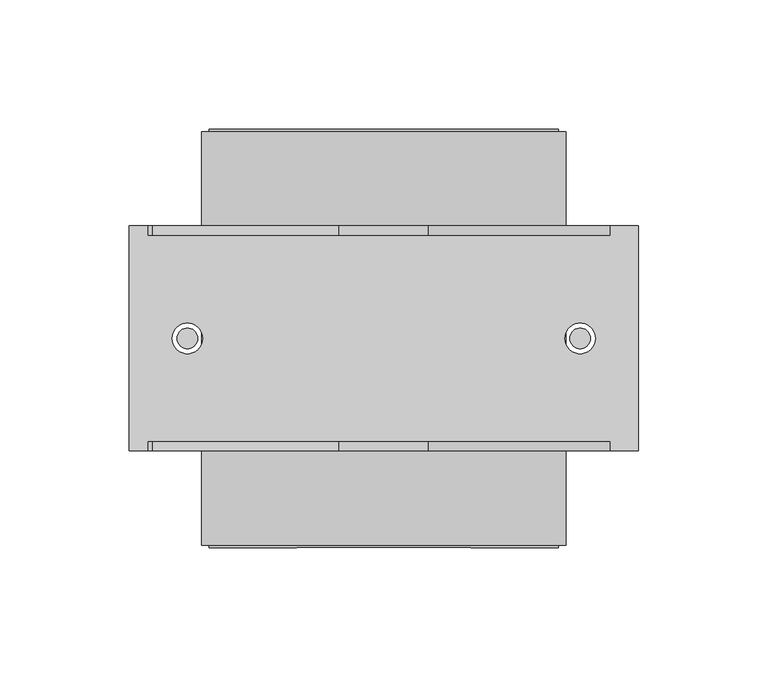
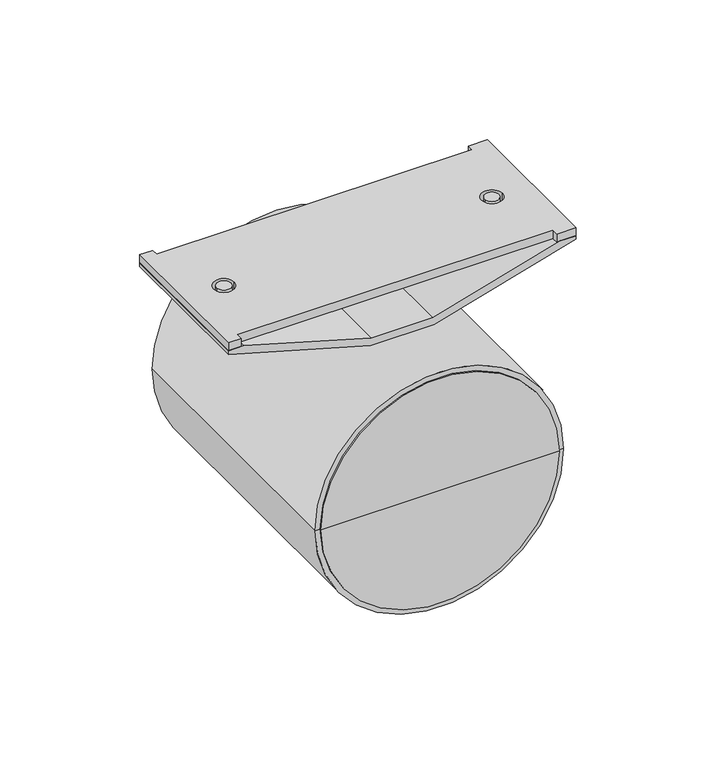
"""IFC4 building model written with IfcOpenShell, lengths in millimetres: proxy geometry, DA 10-260_T-EN54 : DA 10-260_T-EN54."""

from ifc_helpers import new_model, si_unit, point, frame, frame_2d, origin, origin_with_axes, place, context, project, spatial, polyline, circle_curve, ellipse_curve, trimmed, segment, composite_curve, outline, extrude, source, transform, mapped, element, save
from ifc_brep_helpers import plane_surface, cylinder_surface, revolved_surface, advanced_brep


def communication_devices_d43287d2(model_context):
    return source(origin(), model_context, "Body", "SolidModel", [
        advanced_brep(
        [(-98.5, 36.500062, -2.0), (-18.0, 36.500062, -25.0), (18.0, 36.500062, -25.0), (98.5, 36.500062, -2.0), (98.5, 36.500062, 0.0), (89.5, 36.500062, 0.0), (17.399994, 36.500062, -20.600006), (-17.399994, 36.500062, -20.600006), (-89.5, 36.500062, 0.0), (-98.5, 36.500062, 0.0), (-98.5, 123.500062, -2.0), (-98.5, 123.500062, 0.0), (-89.5, 123.500062, 0.0), (-17.399994, 123.500062, -20.600006), (17.399994, 123.500062, -20.600006), (89.5, 123.500062, 0.0), (98.5, 123.500062, 0.0), (98.5, 123.500062, -2.0), (18.0, 123.500062, -25.0), (-18.0, 123.500062, -25.0), (-81.902063, 80.000001, -6.7422677), (-70.097937, 80.000001, -10.1148751), (70.097937, 80.000001, -10.1148751), (81.902063, 80.000001, -6.7422677), (81.902063, 80.000001, -2.1708396), (70.097937, 80.000001, -5.5434477), (-70.097937, 80.000001, -5.5434477), (-81.902063, 80.000001, -2.1708396)],
        [
            (0, 1),
            (1, 2),
            (2, 3),
            (3, 4),
            (4, 5),
            (5, 6),
            (6, 7),
            (7, 8),
            (8, 9),
            (9, 0),
            (10, 11),
            (11, 12),
            (12, 13),
            (13, 14),
            (14, 15),
            (15, 16),
            (16, 17),
            (17, 18),
            (18, 19),
            (19, 10),
            (0, 10),
            (19, 1),
            (20, 21, ellipse_curve(frame((-76.0, 80.000001, -8.4285714), z_axis=(0.2747211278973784, 0.0, 0.961523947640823), x_axis=(-0.9615239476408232, 0.0, 0.27472112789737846)), 6.1382382, 5.902063)),
            (21, 20, ellipse_curve(frame((-76.0, 80.000001, -8.4285714), z_axis=(0.2747211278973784, 0.0, 0.961523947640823), x_axis=(-0.9615239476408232, 0.0, 0.27472112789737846)), 6.1382382, 5.902063)),
            (18, 2),
            (17, 3),
            (22, 23, ellipse_curve(frame((76.0, 80.000001, -8.4285714), z_axis=(-0.27472112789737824, 0.0, 0.9615239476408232), x_axis=(0.9615239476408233, 0.0, 0.27472112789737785)), 6.1382382, 5.902063)),
            (23, 22, ellipse_curve(frame((76.0, 80.000001, -8.4285714), z_axis=(-0.27472112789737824, 0.0, 0.9615239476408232), x_axis=(0.9615239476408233, 0.0, 0.27472112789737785)), 6.1382382, 5.902063)),
            (16, 4),
            (15, 5),
            (14, 6),
            (24, 25, ellipse_curve(frame((76.0, 80.000001, -3.8571437), z_axis=(0.27472118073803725, 0.0, -0.9615239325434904), x_axis=(0.9615239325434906, 0.0, 0.27472118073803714)), 6.1382383, 5.902063)),
            (25, 24, ellipse_curve(frame((76.0, 80.000001, -3.8571437), z_axis=(0.27472118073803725, 0.0, -0.9615239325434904), x_axis=(0.9615239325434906, 0.0, 0.27472118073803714)), 6.1382383, 5.902063)),
            (13, 7),
            (12, 8),
            (26, 27, ellipse_curve(frame((-76.0, 80.000001, -3.8571437), z_axis=(-0.27472118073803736, 0.0, -0.9615239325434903), x_axis=(-0.9615239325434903, 0.0, 0.27472118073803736)), 6.1382383, 5.902063)),
            (27, 26, ellipse_curve(frame((-76.0, 80.000001, -3.8571437), z_axis=(-0.27472118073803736, 0.0, -0.9615239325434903), x_axis=(-0.9615239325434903, 0.0, 0.27472118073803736)), 6.1382383, 5.902063)),
            (11, 9),
            (20, 27),
            (26, 21),
            (22, 25),
            (24, 23),
        ],
        [
            plane_surface(frame((-98.5, 36.500062, -2.0), z_axis=(0.0, -1.0, 0.0), x_axis=(0.961523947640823, 0.0, -0.2747211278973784))),
            plane_surface(frame((-98.5, 123.500062, -2.0), z_axis=(0.0, 1.0, 0.0), x_axis=(-0.961523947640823, 0.0, 0.2747211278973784))),
            plane_surface(frame((-98.5, 36.500062, -2.0), z_axis=(-0.2747211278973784, 0.0, -0.961523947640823), x_axis=(0.0, 1.0, 0.0))),
            plane_surface(frame((-18.0, 36.500062, -25.0), z_axis=(0.0, 0.0, -1.0), x_axis=(0.0, 1.0, 0.0))),
            plane_surface(frame((18.0, 36.500062, -25.0), z_axis=(0.27472112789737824, 0.0, -0.9615239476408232), x_axis=(0.0, 1.0, 0.0))),
            plane_surface(frame((98.5, 36.500062, -2.0), z_axis=(1.0, 0.0, 0.0), x_axis=(0.0, 1.0, 0.0))),
            plane_surface(frame((98.5, 36.500062, 0.0), z_axis=(0.0, 0.0, 1.0), x_axis=(0.0, 1.0, 0.0))),
            plane_surface(frame((89.5, 36.500062, 0.0), z_axis=(-0.27472118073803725, 0.0, 0.9615239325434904), x_axis=(0.0, 1.0, 0.0))),
            plane_surface(frame((17.399994, 36.500062, -20.600006), z_axis=(0.0, 0.0, 1.0), x_axis=(0.0, 1.0, 0.0))),
            plane_surface(frame((-17.399994, 36.500062, -20.600006), z_axis=(0.27472118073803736, 0.0, 0.9615239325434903), x_axis=(0.0, 1.0, 0.0))),
            plane_surface(frame((-89.5, 36.500062, 0.0), z_axis=(0.0, 0.0, 1.0), x_axis=(0.0, 1.0, 0.0))),
            plane_surface(frame((-98.5, 36.500062, 0.0), z_axis=(-1.0, 0.0, 0.0), x_axis=(0.0, 1.0, 0.0))),
            revolved_surface(polyline([(-70.097937, 80.000001, -2.1708396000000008), (-70.097937, 80.000001, -10.114875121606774)]), (-76.0, 80.000001, -25.0), (0.0, 0.0, 1.0)),
            revolved_surface(polyline([(70.097937, 80.000001, -2.1708396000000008), (70.097937, 80.000001, -10.114875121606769)]), (76.0, 80.000001, -25.0), (0.0, 0.0, 1.0)),
        ],
        [
            (0, [[1, 2, 3, 4, 5, 6, 7, 8, 9, 10]]),
            (1, [[11, 12, 13, 14, 15, 16, 17, 18, 19, 20]]),
            (2, [[-1, 21, -20, 22], [23, 24]]),
            (3, [[-2, -22, -19, 25]]),
            (4, [[-3, -25, -18, 26], [27, 28]]),
            (5, [[-4, -26, -17, 29]]),
            (6, [[-5, -29, -16, 30]]),
            (7, [[-6, -30, -15, 31], [32, 33]]),
            (8, [[-7, -31, -14, 34]]),
            (9, [[-8, -34, -13, 35], [36, 37]]),
            (10, [[-9, -35, -12, 38]]),
            (11, [[-10, -38, -11, -21]]),
            (12, [[39, -36, 40, -23]]),
            (12, [[-39, -24, -40, -37]]),
            (13, [[41, -32, 42, -27]]),
            (13, [[-41, -28, -42, -33]]),
        ],
    ),
        advanced_brep(
        [(-79.999999, 80.000001, -7.2857146), (-72.000001, 80.000001, -9.5714283), (-72.000001, 80.000001, -5.0000008), (-79.999999, 80.000001, -2.7142866)],
        [
            (0, 1, ellipse_curve(frame((-76.0, 80.000001, -8.4285714), z_axis=(-0.2747211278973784, 0.0, -0.961523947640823), x_axis=(0.9615239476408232, 0.0, -0.27472112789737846)), 4.1600618, 3.999999)),
            (1, 0, ellipse_curve(frame((-76.0, 80.000001, -8.4285714), z_axis=(-0.2747211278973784, 0.0, -0.961523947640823), x_axis=(0.9615239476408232, 0.0, -0.27472112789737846)), 4.1600618, 3.999999)),
            (2, 3, ellipse_curve(frame((-76.0, 80.000001, -3.8571437), z_axis=(0.27472118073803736, 0.0, 0.9615239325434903), x_axis=(0.9615239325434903, 0.0, -0.27472118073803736)), 4.1600618, 3.999999)),
            (3, 2, ellipse_curve(frame((-76.0, 80.000001, -3.8571437), z_axis=(0.27472118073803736, 0.0, 0.9615239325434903), x_axis=(0.9615239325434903, 0.0, -0.27472118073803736)), 4.1600618, 3.999999)),
            (0, 3),
            (2, 1),
        ],
        [
            plane_surface(frame((-98.5, 36.500062, -2.0), z_axis=(-0.2747211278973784, 0.0, -0.961523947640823), x_axis=(0.0, 1.0, 0.0))),
            plane_surface(frame((-17.399994, 36.500062, -20.600006), z_axis=(0.27472118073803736, 0.0, 0.9615239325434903), x_axis=(0.0, 1.0, 0.0))),
            cylinder_surface(frame((-76.0, 80.000001, 0.0), z_axis=(0.0, 0.0, -1.0), x_axis=(1.0, 0.0, 0.0)), 3.999999),
        ],
        [
            (0, [[1, 2]]),
            (1, [[3, 4]]),
            (2, [[5, -3, 6, -1]]),
            (2, [[-5, -2, -6, -4]]),
        ],
    ),
        advanced_brep(
        [(72.000001, 80.000001, -9.5714283), (79.999999, 80.000001, -7.2857146), (79.999999, 80.000001, -2.7142866), (72.000001, 80.000001, -5.0000008)],
        [
            (0, 1, ellipse_curve(frame((76.0, 80.000001, -8.4285714), z_axis=(0.27472112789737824, 0.0, -0.9615239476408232), x_axis=(-0.9615239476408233, 0.0, -0.27472112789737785)), 4.1600618, 3.999999)),
            (1, 0, ellipse_curve(frame((76.0, 80.000001, -8.4285714), z_axis=(0.27472112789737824, 0.0, -0.9615239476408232), x_axis=(-0.9615239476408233, 0.0, -0.27472112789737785)), 4.1600618, 3.999999)),
            (2, 3, ellipse_curve(frame((76.0, 80.000001, -3.8571437), z_axis=(-0.27472118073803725, 0.0, 0.9615239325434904), x_axis=(-0.9615239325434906, 0.0, -0.27472118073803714)), 4.1600618, 3.999999)),
            (3, 2, ellipse_curve(frame((76.0, 80.000001, -3.8571437), z_axis=(-0.27472118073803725, 0.0, 0.9615239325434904), x_axis=(-0.9615239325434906, 0.0, -0.27472118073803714)), 4.1600618, 3.999999)),
            (0, 3),
            (2, 1),
        ],
        [
            plane_surface(frame((18.0, 36.500062, -25.0), z_axis=(0.27472112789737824, 0.0, -0.9615239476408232), x_axis=(0.0, 1.0, 0.0))),
            plane_surface(frame((89.5, 36.500062, 0.0), z_axis=(-0.27472118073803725, 0.0, 0.9615239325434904), x_axis=(0.0, 1.0, 0.0))),
            cylinder_surface(frame((76.0, 80.000001, 0.0), z_axis=(0.0, 0.0, -1.0), x_axis=(-1.0, 0.0, 0.0)), 3.999999),
        ],
        [
            (0, [[1, 2]]),
            (1, [[3, 4]]),
            (2, [[5, -3, 6, -1]]),
            (2, [[-5, -2, -6, -4]]),
        ],
    ),
        extrude(outline(polyline([(-91.31009, 119.699998), (87.68991, 119.699998), (87.68991, 123.500062), (98.5, 123.500062), (98.5, 36.500062), (87.68991, 36.500062), (87.68991, 40.300004), (-91.31009, 40.300004), (-91.31009, 36.500062), (-98.5, 36.500062), (-98.5, 123.500062), (-91.31009, 123.500062), (-91.31009, 119.699998)]), holes=[composite_curve([segment(trimmed(circle_curve(frame_2d((-76.0, 80.000001)), 5.902063), [point((-81.902063, 80.000001))], [point((-70.097937, 80.000001))], True, "CARTESIAN"), True, "CONTINUOUS"), segment(trimmed(circle_curve(frame_2d((-76.0, 80.000001)), 5.902063), [point((-70.097937, 80.000001))], [point((-81.902063, 80.000001))], True, "CARTESIAN"), True, "CONTINUOUS")], self_intersect=False), composite_curve([segment(trimmed(circle_curve(frame_2d((76.0, 80.000001)), 5.902063), [point((70.097937, 80.000001))], [point((81.902063, 80.000001))], True, "CARTESIAN"), True, "CONTINUOUS"), segment(trimmed(circle_curve(frame_2d((76.0, 80.000001)), 5.902063), [point((81.902063, 80.000001))], [point((70.097937, 80.000001))], True, "CARTESIAN"), True, "CONTINUOUS")], self_intersect=False)]), origin_with_axes(), (0.0, 0.0, 1.0), 5.0),
        extrude(outline(composite_curve([segment(trimmed(circle_curve(frame_2d((-76.0, 80.000001)), 3.999999), [point((-79.999999, 80.000001))], [point((-72.000001, 80.000001))], False, "CARTESIAN"), True, "CONTINUOUS"), segment(trimmed(circle_curve(frame_2d((-76.0, 80.000001)), 3.999999), [point((-72.000001, 80.000001))], [point((-79.999999, 80.000001))], False, "CARTESIAN"), True, "CONTINUOUS")], self_intersect=False)), origin_with_axes(), (0.0, 0.0, 1.0), 5.0),
        extrude(outline(composite_curve([segment(trimmed(circle_curve(frame_2d((76.0, 80.000001)), 3.999999), [point((72.000001, 80.000001))], [point((79.999999, 80.000001))], False, "CARTESIAN"), True, "CONTINUOUS"), segment(trimmed(circle_curve(frame_2d((76.0, 80.000001)), 3.999999), [point((79.999999, 80.000001))], [point((72.000001, 80.000001))], False, "CARTESIAN"), True, "CONTINUOUS")], self_intersect=False)), origin_with_axes(), (0.0, 0.0, 1.0), 5.0),
        advanced_brep(
        [(67.5, 160.0, -95.5), (-67.5, 160.0, -95.5), (-67.5, 160.8609376, -95.5), (67.5, 160.8609376, -95.5), (0.0, 160.0, -95.5), (0.0, 160.8609376, -95.5)],
        [
            (0, 1, circle_curve(frame((0.0, 160.0, -95.5), z_axis=(0.0, 1.0, 0.0), x_axis=(-1.0, 0.0, 0.0)), 67.5)),
            (1, 2),
            (2, 3, circle_curve(frame((0.0, 160.8609376, -95.5), z_axis=(0.0, -1.0, 0.0), x_axis=(-1.0, 0.0, 0.0)), 67.5)),
            (3, 0),
            (1, 0, circle_curve(frame((0.0, 160.0, -95.5), z_axis=(0.0, 1.0, 0.0), x_axis=(-1.0, 0.0, 0.0)), 67.5)),
            (3, 2, circle_curve(frame((0.0, 160.8609376, -95.5), z_axis=(0.0, -1.0, 0.0), x_axis=(-1.0, 0.0, 0.0)), 67.5)),
            (4, 1),
            (0, 4),
            (2, 5),
            (5, 3),
        ],
        [
            cylinder_surface(frame((0.0, 160.8609376, -95.5), z_axis=(0.0, -1.0, 0.0), x_axis=(-1.0, 0.0, 0.0)), 67.5),
            plane_surface(frame((0.0, 160.0, -95.5), z_axis=(0.0, -1.0, 0.0), x_axis=(-1.0, 0.0, 0.0))),
            plane_surface(frame((0.0, 160.8609376, -95.5), z_axis=(0.0, 1.0, 0.0), x_axis=(-1.0, 0.0, 0.0))),
        ],
        [
            (0, [[1, 2, 3, 4]]),
            (0, [[5, -4, 6, -2]]),
            (1, [[7, -1, 8]]),
            (1, [[-8, -5, -7]]),
            (2, [[-3, 9, 10]]),
            (2, [[-6, -10, -9]]),
        ],
    ),
        advanced_brep(
        [(0.0, -0.8608136, -95.5), (-67.5, -0.8608136, -95.5), (67.5, -0.8608136, -95.5), (67.5, 0.000124, -95.5), (-67.5, 0.000124, -95.5), (0.0, 0.000124, -95.5)],
        [
            (0, 1),
            (1, 2, circle_curve(frame((0.0, -0.8608136, -95.5), z_axis=(0.0, -1.0, 0.0), x_axis=(-1.0, 0.0, 0.0)), 67.5)),
            (2, 0),
            (2, 1, circle_curve(frame((0.0, -0.8608136, -95.5), z_axis=(0.0, -1.0, 0.0), x_axis=(-1.0, 0.0, 0.0)), 67.5)),
            (3, 4, circle_curve(frame((0.0, 0.000124, -95.5), z_axis=(0.0, 1.0, 0.0), x_axis=(-1.0, 0.0, 0.0)), 67.5)),
            (4, 5),
            (5, 3),
            (4, 3, circle_curve(frame((0.0, 0.000124, -95.5), z_axis=(0.0, 1.0, 0.0), x_axis=(-1.0, 0.0, 0.0)), 67.5)),
            (1, 4),
            (3, 2),
        ],
        [
            plane_surface(frame((0.0, -0.8608136, -95.5), z_axis=(0.0, -1.0, 0.0), x_axis=(-1.0, 0.0, 0.0))),
            plane_surface(frame((0.0, 0.000124, -95.5), z_axis=(0.0, 1.0, 0.0), x_axis=(-1.0, 0.0, 0.0))),
            cylinder_surface(frame((0.0, 160.8609376, -95.5), z_axis=(0.0, -1.0, 0.0), x_axis=(-1.0, 0.0, 0.0)), 67.5),
        ],
        [
            (0, [[1, 2, 3]]),
            (0, [[-3, 4, -1]]),
            (1, [[5, 6, 7]]),
            (1, [[8, -7, -6]]),
            (2, [[-2, 9, -5, 10]]),
            (2, [[-4, -10, -8, -9]]),
        ],
    ),
        advanced_brep(
        [(0.0, 0.0, -95.5), (-70.5, 0.0, -95.5), (70.5, 0.0, -95.5), (70.5, 160.0, -95.5), (-70.5, 160.0, -95.5), (0.0, 160.0, -95.5)],
        [
            (0, 1),
            (1, 2, circle_curve(frame((0.0, 0.0, -95.5), z_axis=(0.0, -1.0, 0.0), x_axis=(-1.0, 0.0, 0.0)), 70.5)),
            (2, 0),
            (2, 1, circle_curve(frame((0.0, 0.0, -95.5), z_axis=(0.0, -1.0, 0.0), x_axis=(-1.0, 0.0, 0.0)), 70.5)),
            (3, 4, circle_curve(frame((0.0, 160.0, -95.5), z_axis=(0.0, 1.0, 0.0), x_axis=(-1.0, 0.0, 0.0)), 70.5)),
            (4, 5),
            (5, 3),
            (4, 3, circle_curve(frame((0.0, 160.0, -95.5), z_axis=(0.0, 1.0, 0.0), x_axis=(-1.0, 0.0, 0.0)), 70.5)),
            (1, 4),
            (3, 2),
        ],
        [
            plane_surface(frame((0.0, 0.0, -95.5), z_axis=(0.0, -1.0, 0.0), x_axis=(-1.0, 0.0, 0.0))),
            plane_surface(frame((0.0, 160.0, -95.5), z_axis=(0.0, 1.0, 0.0), x_axis=(-1.0, 0.0, 0.0))),
            cylinder_surface(frame((0.0, 155.0, -95.5), z_axis=(0.0, -1.0, 0.0), x_axis=(-1.0, 0.0, 0.0)), 70.5),
        ],
        [
            (0, [[1, 2, 3]]),
            (0, [[-3, 4, -1]]),
            (1, [[5, 6, 7]]),
            (1, [[8, -7, -6]]),
            (2, [[-2, 9, -5, 10]]),
            (2, [[-4, -10, -8, -9]]),
        ],
    ),
    ])


if __name__ == "__main__":
    model = new_model("IFC4")
    model_context = context("Model", 3, world=origin())
    ifc_project = project(units=[si_unit("LENGTHUNIT", "METRE", prefix="MILLI")], contexts=[model_context])
    site = spatial("IfcSite", under=ifc_project)
    building = spatial("IfcBuilding", under=site)
    placement = place(None, origin())
    communication_devices_shape = communication_devices_d43287d2(model_context)
    element("IfcBuildingElementProxy", 1, Name="DA 10-260_T-EN54 : DA 10-260_T-EN54", ObjectType="DA 10-260_T-EN54 : DA 10-260_T-EN54", at=placement, inside=building, context=model_context, shape_type="MappedRepresentation", body=[
        mapped(communication_devices_shape, transform((0.0, 0.0, 0.0), x_axis=(1.0, 0.0, 0.0), y_axis=(0.0, 1.0, 0.0), z_axis=(0.0, 0.0, 1.0))),
    ])
    save(model, "model.ifc")
